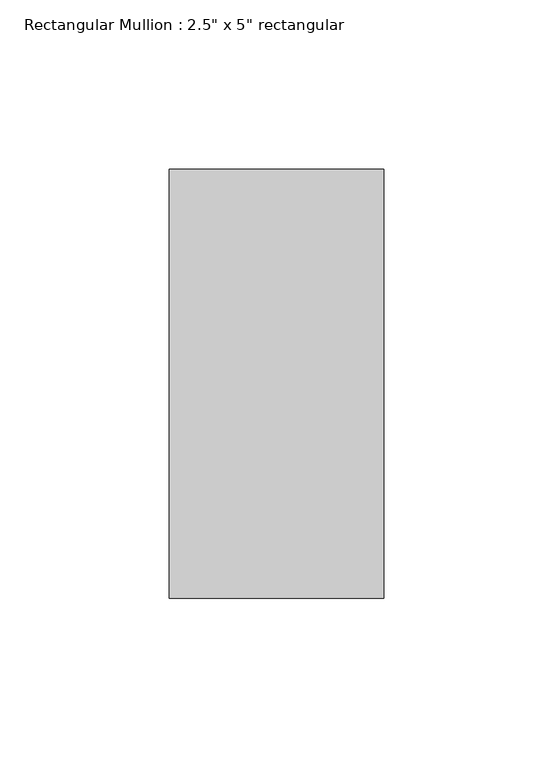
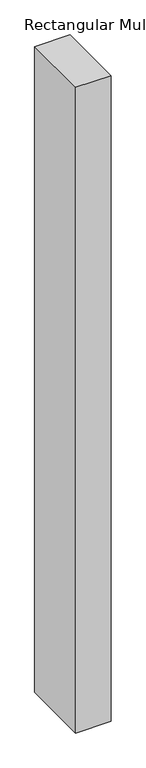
"""IFC4 building model written with IfcOpenShell, lengths in millimetres: member geometry."""

from ifc_helpers import new_model, si_unit, frame, origin, place, context, project, spatial, polyline, outline, extrude, source, transform, mapped, element, save


def member_9aff912a(model_context):
    return source(origin(), model_context, "Body", "SweptSolid", [
        extrude(outline(polyline([(31.75, 63.5), (31.75, -63.5), (-31.75, -63.5), (-31.75, 63.5), (31.75, 63.5)])), frame((0.0, 0.0, -1220.5651287), z_axis=(0.0, 0.0, 1.0), x_axis=(1.0, 0.0, 0.0)), (0.0, 0.0, 1.0), 1220.5651287),
    ])


if __name__ == "__main__":
    model = new_model("IFC4")
    model_context = context("Model", 3, world=origin())
    ifc_project = project(units=[si_unit("LENGTHUNIT", "METRE", prefix="MILLI")], contexts=[model_context])
    site = spatial("IfcSite", under=ifc_project)
    building = spatial("IfcBuilding", under=site)
    placement = place(None, origin())
    member_shape = member_9aff912a(model_context)
    element("IfcMember", 1, ObjectType="Rectangular Mullion : 2.5\" x 5\" rectangular", at=placement, inside=building, context=model_context, shape_type="MappedRepresentation", body=[
        mapped(member_shape, transform((0.0, 0.0, 0.0), x_axis=(1.0, 0.0, 0.0), y_axis=(0.0, 1.0, 0.0), z_axis=(0.0, 0.0, 1.0))),
    ])
    save(model, "model.ifc")
